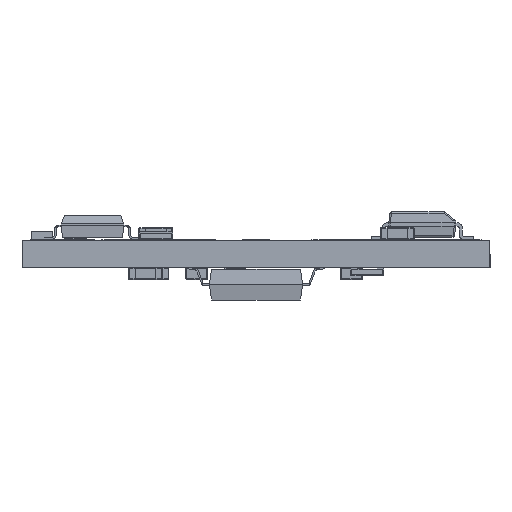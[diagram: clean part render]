
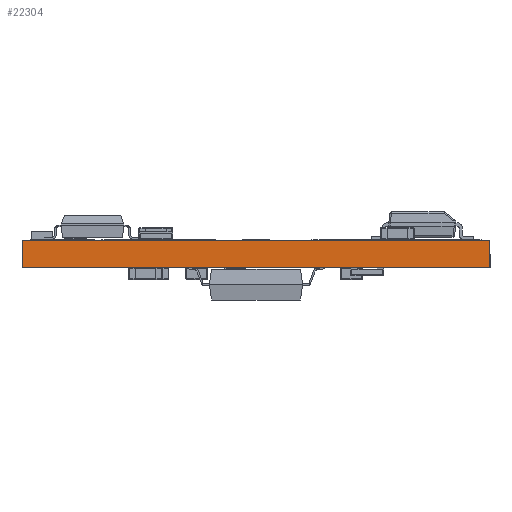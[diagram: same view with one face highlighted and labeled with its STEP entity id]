
A CAD part, front view. The second image highlights one B-rep face of the part: STEP entity #22304.
In plain terms, the highlighted planar face has unit normal (0, -1, 0).
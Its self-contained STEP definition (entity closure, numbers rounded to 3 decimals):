
#12335 = VERTEX_POINT ( 'NONE', #44059 ) ;
#17489 = EDGE_CURVE ( 'NONE', #12335, #121692, #54801, .T. ) ;
#22304 = ADVANCED_FACE ( 'NONE', ( #26250 ), #43772, .F. ) ;
#26250 = FACE_OUTER_BOUND ( 'NONE', #130305, .T. ) ;
#26321 = DIRECTION ( 'NONE',  ( 1., 0., 0. ) ) ;
#42589 = DIRECTION ( 'NONE',  ( 0., 1., 0. ) ) ;
#43772 = PLANE ( 'NONE',  #156841 ) ;
#44059 = CARTESIAN_POINT ( 'NONE',  ( 14., -14., -0.03 ) ) ;
#46225 = CARTESIAN_POINT ( 'NONE',  ( -14., -14., -0.03 ) ) ;
#51043 = DIRECTION ( 'NONE',  ( 0., 0., 1. ) ) ;
#54801 = LINE ( 'NONE', #108042, #87507 ) ;
#59187 = CARTESIAN_POINT ( 'NONE',  ( 14., -14., -1.66 ) ) ;
#63352 = EDGE_CURVE ( 'NONE', #123343, #12335, #174839, .T. ) ;
#65949 = ORIENTED_EDGE ( 'NONE', *, *, #173354, .F. ) ;
#86891 = ORIENTED_EDGE ( 'NONE', *, *, #160676, .T. ) ;
#87507 = VECTOR ( 'NONE', #136173, 1000. ) ;
#88774 = DIRECTION ( 'NONE',  ( 0., 0., 1. ) ) ;
#89048 = CARTESIAN_POINT ( 'NONE',  ( -14., -14., -1.66 ) ) ;
#108042 = CARTESIAN_POINT ( 'NONE',  ( -14., -14., -0.03 ) ) ;
#112812 = CARTESIAN_POINT ( 'NONE',  ( -14., -14., -1.69 ) ) ;
#121692 = VERTEX_POINT ( 'NONE', #46225 ) ;
#122155 = VECTOR ( 'NONE', #88774, 1000. ) ;
#123343 = VERTEX_POINT ( 'NONE', #59187 ) ;
#123384 = VERTEX_POINT ( 'NONE', #89048 ) ;
#128090 = VECTOR ( 'NONE', #26321, 1000. ) ;
#130305 = EDGE_LOOP ( 'NONE', ( #170351, #166736, #65949, #86891 ) ) ;
#133240 = VECTOR ( 'NONE', #51043, 1000. ) ;
#136173 = DIRECTION ( 'NONE',  ( -1., 0., 0. ) ) ;
#141549 = DIRECTION ( 'NONE',  ( 1., 0., 0. ) ) ;
#154436 = LINE ( 'NONE', #166075, #128090 ) ;
#154897 = LINE ( 'NONE', #157904, #122155 ) ;
#156841 = AXIS2_PLACEMENT_3D ( 'NONE', #112812, #42589, #141549 ) ;
#157904 = CARTESIAN_POINT ( 'NONE',  ( -14., -14., -1.69 ) ) ;
#160676 = EDGE_CURVE ( 'NONE', #123384, #123343, #154436, .T. ) ;
#161585 = CARTESIAN_POINT ( 'NONE',  ( 14., -14., -1.69 ) ) ;
#166075 = CARTESIAN_POINT ( 'NONE',  ( -14., -14., -1.66 ) ) ;
#166736 = ORIENTED_EDGE ( 'NONE', *, *, #17489, .T. ) ;
#170351 = ORIENTED_EDGE ( 'NONE', *, *, #63352, .T. ) ;
#173354 = EDGE_CURVE ( 'NONE', #123384, #121692, #154897, .T. ) ;
#174839 = LINE ( 'NONE', #161585, #133240 ) ;
